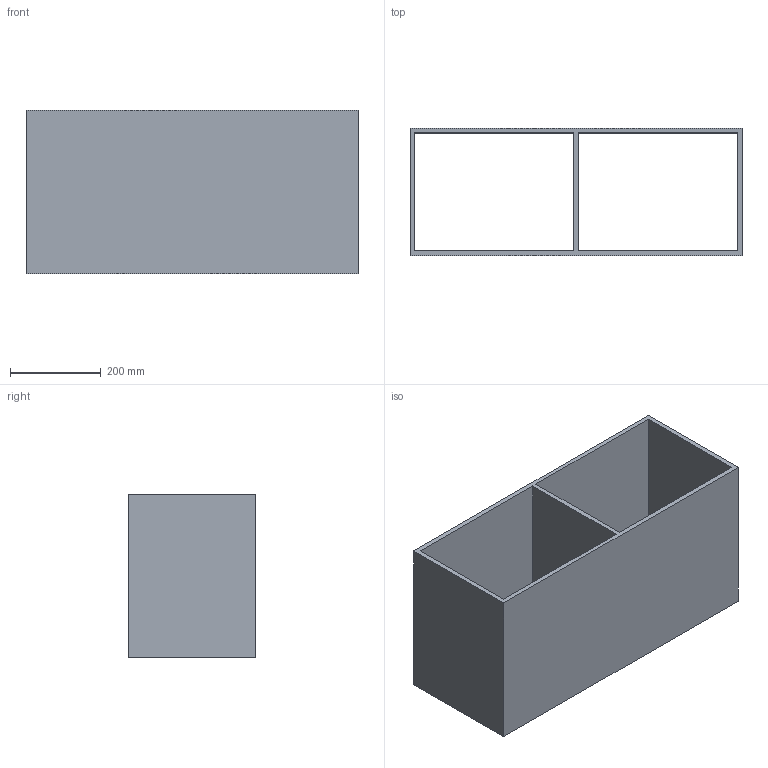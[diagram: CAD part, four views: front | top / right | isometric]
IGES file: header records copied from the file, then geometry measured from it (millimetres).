
Start section: SolidWorks IGES file using NURBS representation for surfaces
Global section: file name: D:\VICCARBE\PRODUCTOS\19-MASS\04-MODELADOS (PLANOS)\SOLIDWORKS\PIEZAS\Accesories\01-IGES\VICCARBE_Mass_container.IGS; native system: SolidWorks 2009; preprocessor: SolidWorks 2009; author: RUBEN; date: 110908.155434; units: millimetre
Bounding box: 730 x 280 x 360 mm (x, y, z)
Surface area: 1650400 mm2 (no closed solid volume)
Topology: 0 solids, 0 shells, 14 faces, 72 edges, 72 vertices
Faces by surface type: bspline 14
